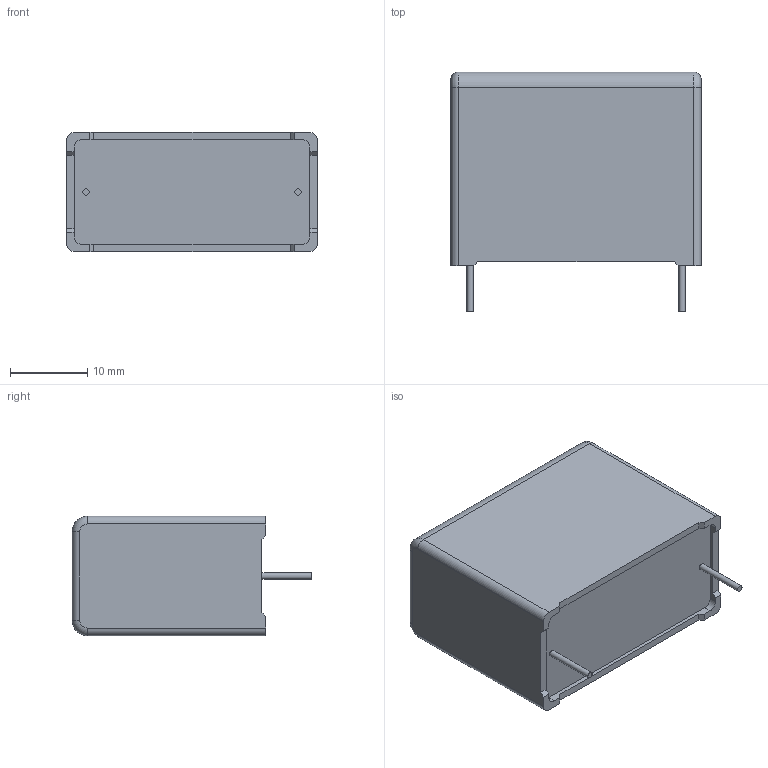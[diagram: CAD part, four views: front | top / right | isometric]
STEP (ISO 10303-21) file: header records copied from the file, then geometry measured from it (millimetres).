
FILE_DESCRIPTION (( 'STEP AP203' ), '1' );
FILE_NAME ('MKP1847H51035+K2.step', '2018-01-17T10:50:36', ( 'work' ), ( 'Hewlett-Packard Company' ), 'SwSTEP 2.0', 'SolidWorks 2017', '' );
FILE_SCHEMA (( 'CONFIG_CONTROL_DESIGN' ));
Length unit declared in the file: millimetre
Products named in the file (1): MKP1847H51035+K2
Bounding box: 32.5 x 31.1 x 15.5 mm (x, y, z)
Volume: 12118.7 mm3; surface area: 3353.2 mm2
Topology: 1 solids, 1 shells, 114 faces, 303 edges, 200 vertices
Faces by surface type: plane 80, bspline 16, cylinder 14, torus 4
Full cylindrical faces by diameter (mm): 0.8 x2
Entity records: 4252 total; most frequent: CARTESIAN_POINT 1436, ORIENTED_EDGE 598, DIRECTION 497, EDGE_CURVE 299, LINE 235, VECTOR 235, VERTEX_POINT 198, AXIS2_PLACEMENT_3D 131
